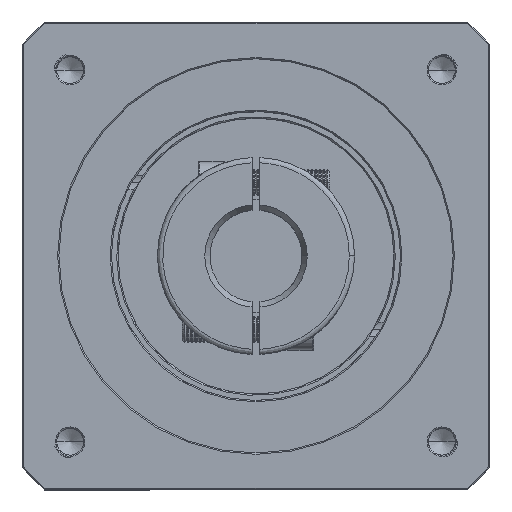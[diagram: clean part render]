
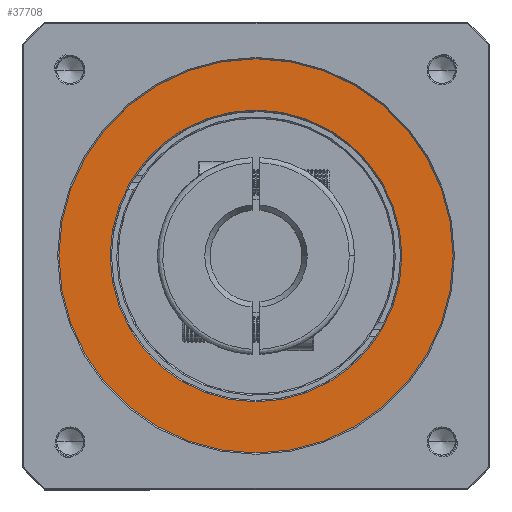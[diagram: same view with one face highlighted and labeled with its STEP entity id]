
A CAD part, top view. The second image highlights one B-rep face of the part: STEP entity #37708.
In plain terms, the highlighted planar face has unit normal (0, 0, 1).
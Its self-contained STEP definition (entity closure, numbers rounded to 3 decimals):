
#10 = ORIENTED_EDGE ( 'NONE', *, *, #57717, .T. ) ;
#1006 = CARTESIAN_POINT ( 'NONE',  ( -90.401, 91.584, 33.108 ) ) ;
#1946 = DIRECTION ( 'NONE',  ( 0., 0., 1. ) ) ;
#15228 = DIRECTION ( 'NONE',  ( 0., 0., 1. ) ) ;
#18745 = ORIENTED_EDGE ( 'NONE', *, *, #28280, .T. ) ;
#24338 = EDGE_LOOP ( 'NONE', ( #93169, #10 ) ) ;
#25520 = VERTEX_POINT ( 'NONE', #72074 ) ;
#28280 = EDGE_CURVE ( 'NONE', #37006, #97278, #41709, .T. ) ;
#30362 = EDGE_LOOP ( 'NONE', ( #18745, #57153 ) ) ;
#31459 = DIRECTION ( 'NONE',  ( 1., 0., 0. ) ) ;
#32997 = AXIS2_PLACEMENT_3D ( 'NONE', #37858, #36945, #123212 ) ;
#34252 = EDGE_CURVE ( 'NONE', #25520, #132363, #55940, .T. ) ;
#36945 = DIRECTION ( 'NONE',  ( 0., 0., -1. ) ) ;
#37006 = VERTEX_POINT ( 'NONE', #40811 ) ;
#37708 = ADVANCED_FACE ( 'NONE', ( #127152, #125503 ), #65643, .T. ) ;
#37858 = CARTESIAN_POINT ( 'NONE',  ( -90.401, 91.584, 33.108 ) ) ;
#40811 = CARTESIAN_POINT ( 'NONE',  ( -34.901, 91.584, 33.108 ) ) ;
#41709 = CIRCLE ( 'NONE', #130458, 55.5 ) ;
#46312 = DIRECTION ( 'NONE',  ( 1., 0., 0. ) ) ;
#46380 = CIRCLE ( 'NONE', #32997, 55.5 ) ;
#48663 = AXIS2_PLACEMENT_3D ( 'NONE', #1006, #1946, #77890 ) ;
#53180 = CIRCLE ( 'NONE', #104857, 75. ) ;
#55940 = CIRCLE ( 'NONE', #56338, 75. ) ;
#56338 = AXIS2_PLACEMENT_3D ( 'NONE', #101809, #102280, #70734 ) ;
#57153 = ORIENTED_EDGE ( 'NONE', *, *, #86728, .T. ) ;
#57717 = EDGE_CURVE ( 'NONE', #132363, #25520, #53180, .T. ) ;
#65643 = PLANE ( 'NONE',  #48663 ) ;
#70734 = DIRECTION ( 'NONE',  ( 1., 0., 0. ) ) ;
#72074 = CARTESIAN_POINT ( 'NONE',  ( -15.401, 91.584, 33.108 ) ) ;
#77890 = DIRECTION ( 'NONE',  ( 1., 0., 0. ) ) ;
#86728 = EDGE_CURVE ( 'NONE', #97278, #37006, #46380, .T. ) ;
#93169 = ORIENTED_EDGE ( 'NONE', *, *, #34252, .T. ) ;
#96031 = DIRECTION ( 'NONE',  ( 0., 0., -1. ) ) ;
#97278 = VERTEX_POINT ( 'NONE', #110613 ) ;
#101809 = CARTESIAN_POINT ( 'NONE',  ( -90.401, 91.584, 33.108 ) ) ;
#102280 = DIRECTION ( 'NONE',  ( 0., 0., 1. ) ) ;
#104857 = AXIS2_PLACEMENT_3D ( 'NONE', #132205, #15228, #46312 ) ;
#106203 = CARTESIAN_POINT ( 'NONE',  ( -165.401, 91.584, 33.108 ) ) ;
#110613 = CARTESIAN_POINT ( 'NONE',  ( -145.901, 91.584, 33.108 ) ) ;
#123212 = DIRECTION ( 'NONE',  ( 1., 0., 0. ) ) ;
#125503 = FACE_OUTER_BOUND ( 'NONE', #24338, .T. ) ;
#127152 = FACE_BOUND ( 'NONE', #30362, .T. ) ;
#130458 = AXIS2_PLACEMENT_3D ( 'NONE', #139961, #96031, #31459 ) ;
#132205 = CARTESIAN_POINT ( 'NONE',  ( -90.401, 91.584, 33.108 ) ) ;
#132363 = VERTEX_POINT ( 'NONE', #106203 ) ;
#139961 = CARTESIAN_POINT ( 'NONE',  ( -90.401, 91.584, 33.108 ) ) ;
